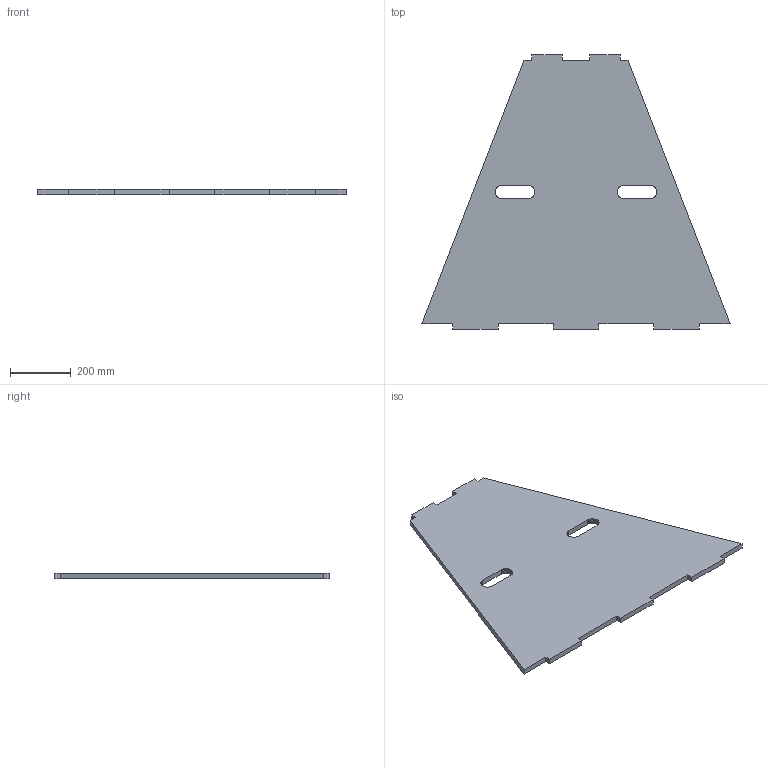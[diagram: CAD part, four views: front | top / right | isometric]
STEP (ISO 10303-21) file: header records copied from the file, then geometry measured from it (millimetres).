
FILE_DESCRIPTION(('Open CASCADE Model'),'2;1');
FILE_NAME('Open CASCADE Shape Model','2026-09-27T09:36:06',('Author'),( 'Open CASCADE'),'Open CASCADE STEP processor 7.9','Open CASCADE 7.9' ,'Unknown');
FILE_SCHEMA(('AUTOMOTIVE_DESIGN { 1 0 10303 214 1 1 1 1 }'));
Length unit declared in the file: millimetre
Products named in the file (1): Open CASCADE STEP translator 7.9 4
Bounding box: 1011.39 x 900 x 18 mm (x, y, z)
Volume: 10535004.4 mm3; surface area: 1242712 mm2
Topology: 1 solids, 1 shells, 126 faces, 372 edges, 248 vertices
Faces by surface type: plane 126
Entity records: 8570 total; most frequent: CARTESIAN_POINT 1891, DIRECTION 970, ORIENTED_EDGE 744, PCURVE 744, DEFINITIONAL_REPRESENTATION 744, LINE 716, VECTOR 716, B_SPLINE_CURVE_WITH_KNOTS 400
